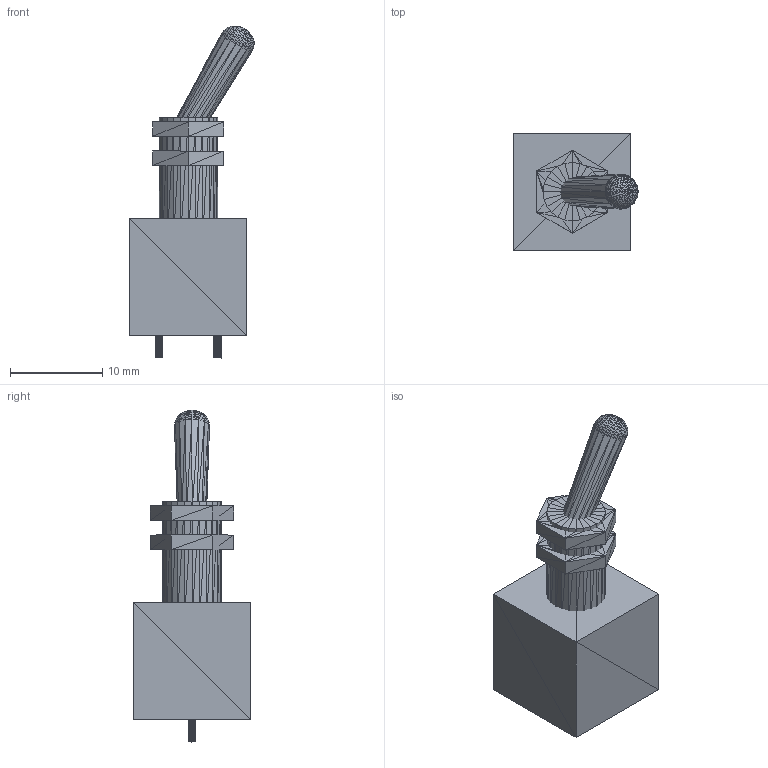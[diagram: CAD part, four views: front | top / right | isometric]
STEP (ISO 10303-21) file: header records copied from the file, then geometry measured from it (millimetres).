
FILE_DESCRIPTION(('HOOPS Exchange Step'),'2;1');
FILE_NAME('***.stp');
FILE_SCHEMA( ('AP242_MANAGED_MODEL_BASED_3D_ENGINEERING_MIM_LF {1 0 10303 442 1 1 4 }') );
Length unit declared in the file: inch
Products named in the file (8): SWSMSPST3_TOG_2; SWSMSPST3_TOG_3; SWSMSPST3_TOG_4; SWSMSPST3_TOG_5; SWSMSPST3_TOG_6; SWSMSPST3_TOG_7; SWSMSPST3_TOG_8; SWSMSPST3_TOG
Assembly tree (7 placements, depth 2):
  SWSMSPST3_TOG
    SWSMSPST3_TOG_2
    SWSMSPST3_TOG_3
    SWSMSPST3_TOG_4
    SWSMSPST3_TOG_5
    SWSMSPST3_TOG_6
    SWSMSPST3_TOG_7
    SWSMSPST3_TOG_8
Bounding box: 13.51 x 12.7 x 36.03 mm (x, y, z)
Volume: 2575.5 mm3; surface area: 1799.3 mm2
Topology: 7 solids, 10 shells, 1024 faces, 1520 edges, 508 vertices
Faces by surface type: plane 1024
Entity records: 20216 total; most frequent: DIRECTION 3600, ORIENTED_EDGE 3072, CARTESIAN_POINT 3068, VECTOR 1520, LINE 1520, EDGE_CURVE 1520, AXIS2_PLACEMENT_3D 1040, PLANE 1024
